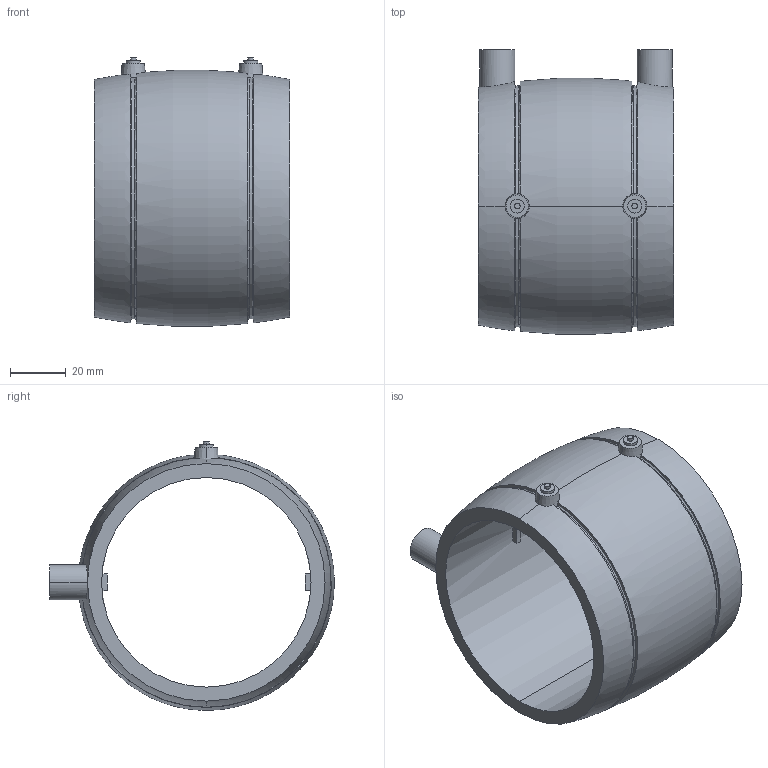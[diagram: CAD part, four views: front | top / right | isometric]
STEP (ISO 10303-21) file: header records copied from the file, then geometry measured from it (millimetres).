
FILE_DESCRIPTION (( 'STEP AP203' ), '1' );
FILE_NAME ('KP_2-75.step', '2011-08-08T12:06:48', ( '' ), ( '' ), 'SwSTEP 2.0', 'SolidWorks 2011', '' );
FILE_SCHEMA (( 'CONFIG_CONTROL_DESIGN' ));
Length unit declared in the file: millimetre
Products named in the file (1): KP_2-75
Bounding box: 70 x 101.83 x 96.07 mm (x, y, z)
Volume: 132610.1 mm3; surface area: 42048.4 mm2
Topology: 1 solids, 1 shells, 72 faces, 172 edges, 112 vertices
Faces by surface type: cylinder 26, plane 26, torus 12, cone 8
Entity records: 2663 total; most frequent: CARTESIAN_POINT 917, DIRECTION 352, ORIENTED_EDGE 344, EDGE_CURVE 172, AXIS2_PLACEMENT_3D 151, VERTEX_POINT 112, EDGE_LOOP 84, CIRCLE 78
